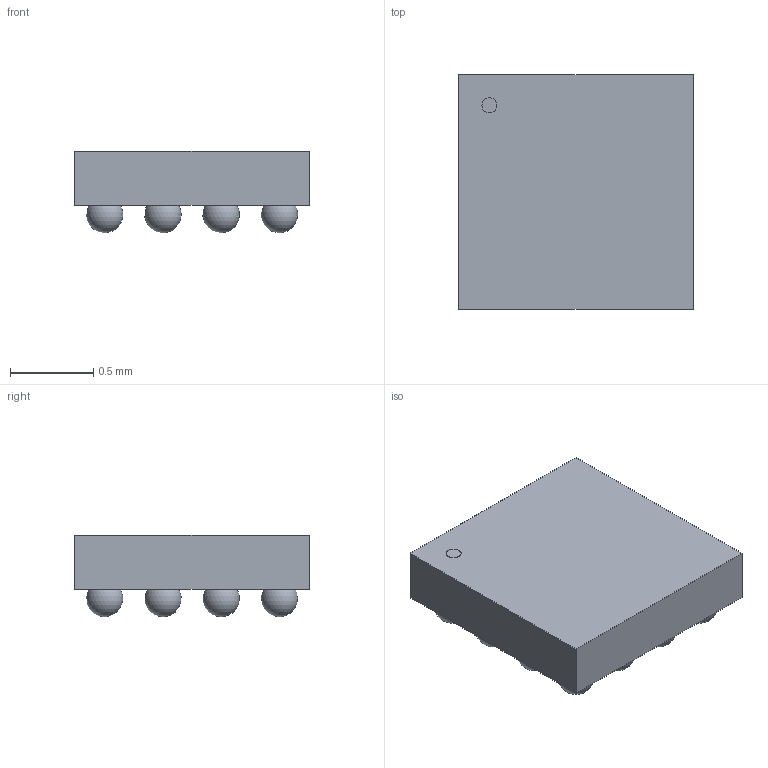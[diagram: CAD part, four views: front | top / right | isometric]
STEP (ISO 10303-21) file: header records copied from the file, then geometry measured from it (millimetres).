
FILE_DESCRIPTION(('Open CASCADE Model'),'2;1');
FILE_NAME('Open CASCADE Shape Model','2026-10-10T18:45:21',('Author'),( 'Open CASCADE'),'Open CASCADE STEP processor 7.9','Open CASCADE 7.9' ,'Unknown');
FILE_SCHEMA(('AUTOMOTIVE_DESIGN { 1 0 10303 214 1 1 1 1 }'));
Length unit declared in the file: millimetre
Products named in the file (19): NXP_NVT4858UK_WLCSP16_1.41x1.41mm_P0.35mm_Drawing_Derived_Nominal; nominal_die_body_with_coating; ball_A1; ball_A2; ball_A3; ball_A4; ball_B1; ball_B2; ball_B3; ball_B4; ball_C1; ball_C2; ball_C3; ball_C4; ball_D1; ball_D2; ball_D3; ball_D4; A1_visual_mark
Assembly tree (18 placements, depth 2):
  NXP_NVT4858UK_WLCSP16_1.41x1.41mm_P0.35mm_Drawing_Derived_Nominal
    nominal_die_body_with_coating
    ball_A1
    ball_A2
    ball_A3
    ball_A4
    ball_B1
    ball_B2
    ball_B3
    ball_B4
    ball_C1
    ball_C2
    ball_C3
    ball_C4
    ball_D1
    ball_D2
    ball_D3
    ball_D4
    A1_visual_mark
Bounding box: 1.41 x 1.41 x 0.49 mm (x, y, z)
Volume: 0.7 mm3; surface area: 8.3 mm2
Topology: 18 solids, 18 shells, 25 faces, 63 edges, 42 vertices
Faces by surface type: sphere 16, plane 8, cylinder 1
Full cylindrical faces by diameter (mm): 0.09 x1
Entity records: 1077 total; most frequent: DIRECTION 135, CARTESIAN_POINT 115, AXIS2_PLACEMENT_3D 46, LINE 41, VECTOR 41, PRODUCT_DEFINITION_SHAPE 37, ORIENTED_EDGE 30, PCURVE 30
